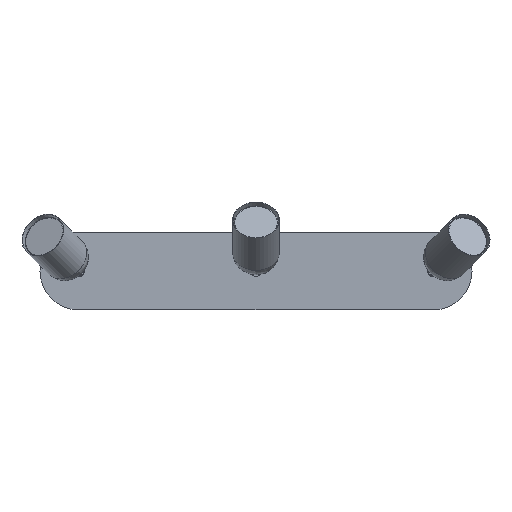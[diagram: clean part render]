
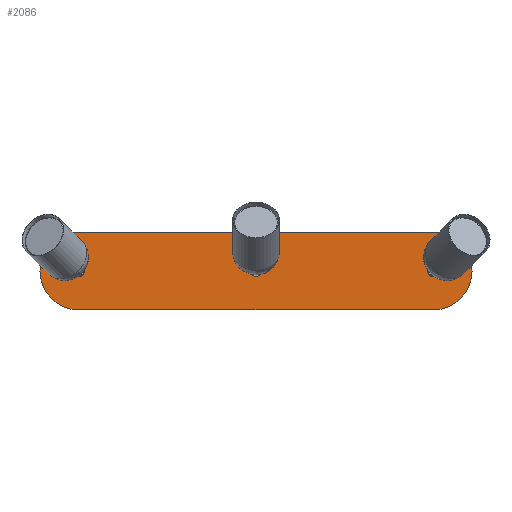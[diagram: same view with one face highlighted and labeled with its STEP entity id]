
A CAD part, front view. The second image highlights one B-rep face of the part: STEP entity #2086.
In plain terms, the highlighted planar face has unit normal (0, -1, 0).
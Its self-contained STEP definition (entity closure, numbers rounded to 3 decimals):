
#290=FACE_OUTER_BOUND('',#428,.T.);
#428=EDGE_LOOP('',(#1843,#1844,#1845,#1846));
#567=LINE('',#4108,#715);
#572=LINE('',#4122,#720);
#715=VECTOR('',#2944,10.);
#720=VECTOR('',#2957,10.);
#825=CIRCLE('',#2369,45.);
#827=CIRCLE('',#2373,45.);
#1009=VERTEX_POINT('',#4106);
#1010=VERTEX_POINT('',#4107);
#1013=VERTEX_POINT('',#4115);
#1015=VERTEX_POINT('',#4121);
#1283=EDGE_CURVE('',#1009,#1010,#567,.T.);
#1287=EDGE_CURVE('',#1013,#1009,#825,.T.);
#1290=EDGE_CURVE('',#1015,#1013,#572,.T.);
#1293=EDGE_CURVE('',#1010,#1015,#827,.T.);
#1843=ORIENTED_EDGE('',*,*,#1293,.F.);
#1844=ORIENTED_EDGE('',*,*,#1283,.F.);
#1845=ORIENTED_EDGE('',*,*,#1287,.F.);
#1846=ORIENTED_EDGE('',*,*,#1290,.F.);
#1954=PLANE('',#2376);
#2086=ADVANCED_FACE('',(#290),#1954,.F.);
#2369=AXIS2_PLACEMENT_3D('',#4116,#2950,#2951);
#2373=AXIS2_PLACEMENT_3D('',#4127,#2962,#2963);
#2376=AXIS2_PLACEMENT_3D('',#4130,#2968,#2969);
#2944=DIRECTION('',(-1.,0.,0.));
#2950=DIRECTION('center_axis',(0.,1.,0.));
#2951=DIRECTION('ref_axis',(0.,0.,1.));
#2957=DIRECTION('',(1.,0.,0.));
#2962=DIRECTION('center_axis',(0.,1.,0.));
#2963=DIRECTION('ref_axis',(0.,0.,-1.));
#2968=DIRECTION('center_axis',(0.,1.,0.));
#2969=DIRECTION('ref_axis',(1.,0.,0.));
#4106=CARTESIAN_POINT('',(205.,0.,-45.));
#4107=CARTESIAN_POINT('',(-205.,0.,-45.));
#4108=CARTESIAN_POINT('',(205.,0.,-45.));
#4115=CARTESIAN_POINT('',(205.,0.,45.));
#4116=CARTESIAN_POINT('Origin',(205.,0.,0.));
#4121=CARTESIAN_POINT('',(-205.,0.,45.));
#4122=CARTESIAN_POINT('',(-205.,0.,45.));
#4127=CARTESIAN_POINT('Origin',(-205.,0.,0.));
#4130=CARTESIAN_POINT('Origin',(0.,0.,0.));
